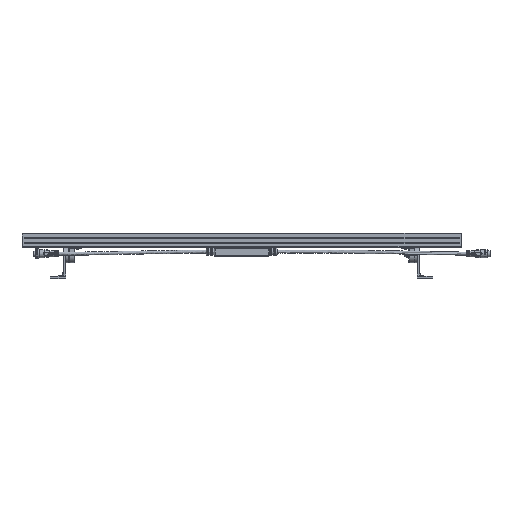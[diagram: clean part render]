
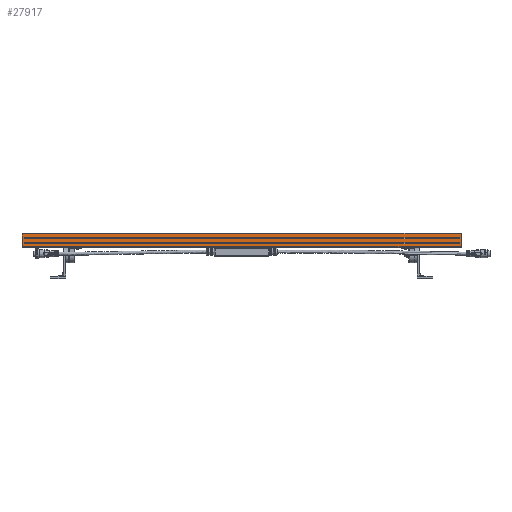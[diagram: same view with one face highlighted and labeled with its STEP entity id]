
A CAD part, top view. The second image highlights one B-rep face of the part: STEP entity #27917.
In plain terms, the highlighted planar face has unit normal (0, 0, 1).
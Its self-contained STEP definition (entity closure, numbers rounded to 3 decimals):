
#236 = CARTESIAN_POINT ( 'NONE',  ( 495., 90.4, 33.5 ) ) ;
#373 = VERTEX_POINT ( 'NONE', #34966 ) ;
#563 = VERTEX_POINT ( 'NONE', #40249 ) ;
#1575 = CARTESIAN_POINT ( 'NONE',  ( 499.6, 72.5, 33.5 ) ) ;
#1976 = CARTESIAN_POINT ( 'NONE',  ( 495., 93.3, 33.5 ) ) ;
#4377 = ORIENTED_EDGE ( 'NONE', *, *, #87350, .T. ) ;
#6626 = CARTESIAN_POINT ( 'NONE',  ( -499.6, 72.5, 33.5 ) ) ;
#7008 = DIRECTION ( 'NONE',  ( 0., 1., 0. ) ) ;
#7620 = VECTOR ( 'NONE', #50414, 1000. ) ;
#7976 = DIRECTION ( 'NONE',  ( -1., 0., 0. ) ) ;
#8161 = DIRECTION ( 'NONE',  ( -1., 0., 0. ) ) ;
#8464 = CARTESIAN_POINT ( 'NONE',  ( 495., 79.2, 33.5 ) ) ;
#10729 = CARTESIAN_POINT ( 'NONE',  ( 499.6, 72.5, 33.5 ) ) ;
#14626 = CARTESIAN_POINT ( 'NONE',  ( -495., 101.5, 33.5 ) ) ;
#14781 = VERTEX_POINT ( 'NONE', #81803 ) ;
#14880 = DIRECTION ( 'NONE',  ( -1., 0., 0. ) ) ;
#15163 = CARTESIAN_POINT ( 'NONE',  ( 495., 101.5, 33.5 ) ) ;
#15276 = EDGE_LOOP ( 'NONE', ( #91084, #4377, #75606, #84696, #91364, #25598, #90108 ) ) ;
#15314 = EDGE_CURVE ( 'NONE', #373, #99259, #90744, .T. ) ;
#17282 = ORIENTED_EDGE ( 'NONE', *, *, #85759, .T. ) ;
#17314 = LINE ( 'NONE', #24367, #7620 ) ;
#17468 = VERTEX_POINT ( 'NONE', #53749 ) ;
#18115 = DIRECTION ( 'NONE',  ( 1., 0., 0. ) ) ;
#18662 = LINE ( 'NONE', #50167, #59738 ) ;
#20837 = VERTEX_POINT ( 'NONE', #75613 ) ;
#20948 = VERTEX_POINT ( 'NONE', #94533 ) ;
#21419 = FACE_OUTER_BOUND ( 'NONE', #15276, .T. ) ;
#22059 = VECTOR ( 'NONE', #100615, 1000. ) ;
#22524 = ORIENTED_EDGE ( 'NONE', *, *, #58320, .F. ) ;
#22652 = ORIENTED_EDGE ( 'NONE', *, *, #60248, .T. ) ;
#22989 = LINE ( 'NONE', #236, #48209 ) ;
#23050 = EDGE_CURVE ( 'NONE', #33504, #47366, #54450, .T. ) ;
#23215 = VECTOR ( 'NONE', #34452, 1000. ) ;
#23909 = CARTESIAN_POINT ( 'NONE',  ( 499.6, 101.5, 33.5 ) ) ;
#24367 = CARTESIAN_POINT ( 'NONE',  ( 495., 72.5, 33.5 ) ) ;
#25598 = ORIENTED_EDGE ( 'NONE', *, *, #93188, .F. ) ;
#27173 = EDGE_CURVE ( 'NONE', #20837, #65515, #74348, .T. ) ;
#27917 = ADVANCED_FACE ( 'NONE', ( #21419, #71857, #94656 ), #38815, .T. ) ;
#29242 = EDGE_CURVE ( 'NONE', #31043, #20948, #36059, .T. ) ;
#29643 = CARTESIAN_POINT ( 'NONE',  ( -495., 82.1, 33.5 ) ) ;
#31043 = VERTEX_POINT ( 'NONE', #39541 ) ;
#32050 = VECTOR ( 'NONE', #93038, 1000. ) ;
#33504 = VERTEX_POINT ( 'NONE', #1575 ) ;
#33638 = VECTOR ( 'NONE', #36636, 1000. ) ;
#33860 = VERTEX_POINT ( 'NONE', #14626 ) ;
#34417 = CARTESIAN_POINT ( 'NONE',  ( -499.6, 101.5, 33.5 ) ) ;
#34452 = DIRECTION ( 'NONE',  ( 0., 1., 0. ) ) ;
#34966 = CARTESIAN_POINT ( 'NONE',  ( -495., 79.2, 33.5 ) ) ;
#35514 = CARTESIAN_POINT ( 'NONE',  ( -495., 72.5, 33.5 ) ) ;
#36059 = LINE ( 'NONE', #35514, #23215 ) ;
#36636 = DIRECTION ( 'NONE',  ( 0., 1., 0. ) ) ;
#37290 = EDGE_CURVE ( 'NONE', #90448, #563, #106201, .T. ) ;
#38089 = VECTOR ( 'NONE', #72640, 1000. ) ;
#38815 = PLANE ( 'NONE',  #41107 ) ;
#39541 = CARTESIAN_POINT ( 'NONE',  ( -495., 90.4, 33.5 ) ) ;
#40249 = CARTESIAN_POINT ( 'NONE',  ( 495., 82.1, 33.5 ) ) ;
#40917 = VECTOR ( 'NONE', #8161, 1000. ) ;
#41107 = AXIS2_PLACEMENT_3D ( 'NONE', #53477, #78944, #95193 ) ;
#41555 = ORIENTED_EDGE ( 'NONE', *, *, #98443, .F. ) ;
#41810 = VERTEX_POINT ( 'NONE', #98044 ) ;
#42812 = ORIENTED_EDGE ( 'NONE', *, *, #29242, .T. ) ;
#43821 = DIRECTION ( 'NONE',  ( -1., 0., 0. ) ) ;
#44264 = CARTESIAN_POINT ( 'NONE',  ( 495., 82.1, 33.5 ) ) ;
#47366 = VERTEX_POINT ( 'NONE', #23909 ) ;
#48193 = VECTOR ( 'NONE', #83170, 1000. ) ;
#48209 = VECTOR ( 'NONE', #14880, 1000. ) ;
#49302 = LINE ( 'NONE', #82398, #40917 ) ;
#50167 = CARTESIAN_POINT ( 'NONE',  ( -499.6, 72.5, 33.5 ) ) ;
#50414 = DIRECTION ( 'NONE',  ( 0., 1., 0. ) ) ;
#51847 = LINE ( 'NONE', #1976, #32050 ) ;
#53477 = CARTESIAN_POINT ( 'NONE',  ( -495., 71.5, 33.5 ) ) ;
#53749 = CARTESIAN_POINT ( 'NONE',  ( 0., 72.5, 33.5 ) ) ;
#54450 = LINE ( 'NONE', #70759, #33638 ) ;
#55406 = VERTEX_POINT ( 'NONE', #56349 ) ;
#56349 = CARTESIAN_POINT ( 'NONE',  ( 495., 93.3, 33.5 ) ) ;
#57286 = EDGE_CURVE ( 'NONE', #14781, #55406, #17314, .T. ) ;
#58143 = VECTOR ( 'NONE', #43821, 1000. ) ;
#58320 = EDGE_CURVE ( 'NONE', #55406, #20948, #51847, .T. ) ;
#59738 = VECTOR ( 'NONE', #18115, 1000. ) ;
#60248 = EDGE_CURVE ( 'NONE', #90448, #373, #49302, .T. ) ;
#62429 = DIRECTION ( 'NONE',  ( 1., 0., 0. ) ) ;
#64065 = ORIENTED_EDGE ( 'NONE', *, *, #15314, .T. ) ;
#64285 = EDGE_LOOP ( 'NONE', ( #103606, #17282, #42812, #22524 ) ) ;
#65515 = VERTEX_POINT ( 'NONE', #34417 ) ;
#66348 = EDGE_LOOP ( 'NONE', ( #41555, #82532, #22652, #64065 ) ) ;
#70759 = CARTESIAN_POINT ( 'NONE',  ( 499.6, 72.5, 33.5 ) ) ;
#71857 = FACE_BOUND ( 'NONE', #64285, .T. ) ;
#72640 = DIRECTION ( 'NONE',  ( -1., 0., 0. ) ) ;
#74348 = LINE ( 'NONE', #6626, #75573 ) ;
#75573 = VECTOR ( 'NONE', #90095, 1000. ) ;
#75606 = ORIENTED_EDGE ( 'NONE', *, *, #96579, .F. ) ;
#75613 = CARTESIAN_POINT ( 'NONE',  ( -499.6, 72.5, 33.5 ) ) ;
#76214 = CARTESIAN_POINT ( 'NONE',  ( 499.6, 101.5, 33.5 ) ) ;
#78944 = DIRECTION ( 'NONE',  ( 0., 0., 1. ) ) ;
#79970 = EDGE_CURVE ( 'NONE', #20837, #17468, #18662, .T. ) ;
#81283 = CARTESIAN_POINT ( 'NONE',  ( 495., 72.5, 33.5 ) ) ;
#81394 = LINE ( 'NONE', #103638, #84072 ) ;
#81710 = VECTOR ( 'NONE', #7008, 1000. ) ;
#81803 = CARTESIAN_POINT ( 'NONE',  ( 495., 90.4, 33.5 ) ) ;
#82211 = LINE ( 'NONE', #76214, #86371 ) ;
#82398 = CARTESIAN_POINT ( 'NONE',  ( 495., 79.2, 33.5 ) ) ;
#82401 = LINE ( 'NONE', #15163, #38089 ) ;
#82532 = ORIENTED_EDGE ( 'NONE', *, *, #37290, .F. ) ;
#83170 = DIRECTION ( 'NONE',  ( 0., 1., 0. ) ) ;
#84072 = VECTOR ( 'NONE', #62429, 1000. ) ;
#84696 = ORIENTED_EDGE ( 'NONE', *, *, #27173, .F. ) ;
#85759 = EDGE_CURVE ( 'NONE', #14781, #31043, #22989, .T. ) ;
#86371 = VECTOR ( 'NONE', #7976, 1000. ) ;
#87350 = EDGE_CURVE ( 'NONE', #41810, #33860, #82401, .T. ) ;
#90095 = DIRECTION ( 'NONE',  ( 0., 1., 0. ) ) ;
#90108 = ORIENTED_EDGE ( 'NONE', *, *, #23050, .T. ) ;
#90448 = VERTEX_POINT ( 'NONE', #8464 ) ;
#90744 = LINE ( 'NONE', #106475, #48193 ) ;
#91084 = ORIENTED_EDGE ( 'NONE', *, *, #99384, .T. ) ;
#91364 = ORIENTED_EDGE ( 'NONE', *, *, #79970, .T. ) ;
#93038 = DIRECTION ( 'NONE',  ( -1., 0., 0. ) ) ;
#93188 = EDGE_CURVE ( 'NONE', #33504, #17468, #101769, .T. ) ;
#94533 = CARTESIAN_POINT ( 'NONE',  ( -495., 93.3, 33.5 ) ) ;
#94656 = FACE_BOUND ( 'NONE', #66348, .T. ) ;
#95193 = DIRECTION ( 'NONE',  ( 0., 1., 0. ) ) ;
#96579 = EDGE_CURVE ( 'NONE', #65515, #33860, #81394, .T. ) ;
#98044 = CARTESIAN_POINT ( 'NONE',  ( 495., 101.5, 33.5 ) ) ;
#98443 = EDGE_CURVE ( 'NONE', #563, #99259, #101137, .T. ) ;
#99259 = VERTEX_POINT ( 'NONE', #29643 ) ;
#99384 = EDGE_CURVE ( 'NONE', #47366, #41810, #82211, .T. ) ;
#100615 = DIRECTION ( 'NONE',  ( -1., 0., 0. ) ) ;
#101137 = LINE ( 'NONE', #44264, #22059 ) ;
#101769 = LINE ( 'NONE', #10729, #58143 ) ;
#103606 = ORIENTED_EDGE ( 'NONE', *, *, #57286, .F. ) ;
#103638 = CARTESIAN_POINT ( 'NONE',  ( -499.6, 101.5, 33.5 ) ) ;
#106201 = LINE ( 'NONE', #81283, #81710 ) ;
#106475 = CARTESIAN_POINT ( 'NONE',  ( -495., 72.5, 33.5 ) ) ;
